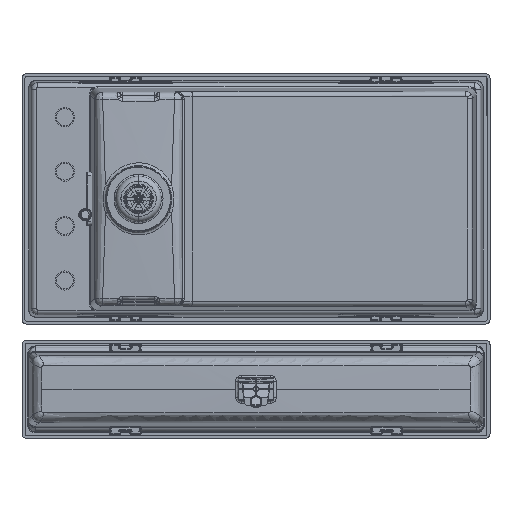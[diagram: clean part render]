
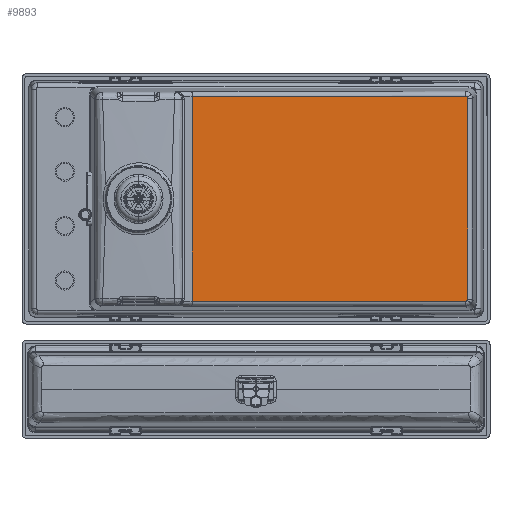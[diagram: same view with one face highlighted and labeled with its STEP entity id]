
A CAD part, front view. The second image highlights one B-rep face of the part: STEP entity #9893.
In plain terms, the highlighted planar face has unit normal (0.026, -1, 0).
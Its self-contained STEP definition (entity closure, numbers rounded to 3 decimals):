
#2474 = LINE ( 'NONE', #53708, #117945 ) ;
#9893 = ADVANCED_FACE ( 'NONE', ( #10015 ), #174915, .T. ) ;
#10015 = FACE_OUTER_BOUND ( 'NONE', #90683, .T. ) ;
#10958 = CARTESIAN_POINT ( 'NONE',  ( 818.165, -178.038, -43.159 ) ) ;
#15091 = CARTESIAN_POINT ( 'NONE',  ( 818.842, -178.021, -45.383 ) ) ;
#16696 = VERTEX_POINT ( 'NONE', #33558 ) ;
#22126 = VERTEX_POINT ( 'NONE', #161753 ) ;
#22325 = CARTESIAN_POINT ( 'NONE',  ( 819.766, -177.997, -1.5 ) ) ;
#22722 = ORIENTED_EDGE ( 'NONE', *, *, #147077, .T. ) ;
#23752 = AXIS2_PLACEMENT_3D ( 'NONE', #22325, #77920, #26707 ) ;
#26707 = DIRECTION ( 'NONE',  ( 0., 0., -1. ) ) ;
#30430 = DIRECTION ( 'NONE',  ( -1., -0.026, -0.001 ) ) ;
#30957 = CARTESIAN_POINT ( 'NONE',  ( 816.205, -178.089, -41.392 ) ) ;
#33558 = CARTESIAN_POINT ( 'NONE',  ( 818.165, -178.038, -416.841 ) ) ;
#36233 = CARTESIAN_POINT ( 'NONE',  ( 814.842, -178.124, -418.606 ) ) ;
#36327 = ORIENTED_EDGE ( 'NONE', *, *, #214008, .T. ) ;
#48341 = LINE ( 'NONE', #183098, #122928 ) ;
#48774 = CARTESIAN_POINT ( 'NONE',  ( 814.842, -178.124, -41.394 ) ) ;
#50431 = DIRECTION ( 'NONE',  ( 0., 0., 1. ) ) ;
#51380 = EDGE_CURVE ( 'NONE', #202875, #80771, #149434, .T. ) ;
#53406 = CARTESIAN_POINT ( 'NONE',  ( 814.842, -178.124, -41.394 ) ) ;
#53708 = CARTESIAN_POINT ( 'NONE',  ( 818.842, -178.021, -1.5 ) ) ;
#56962 = EDGE_CURVE ( 'NONE', #71732, #144204, #113644, .T. ) ;
#60545 = CARTESIAN_POINT ( 'NONE',  ( 818.842, -178.021, -415.416 ) ) ;
#64036 = ORIENTED_EDGE ( 'NONE', *, *, #126503, .T. ) ;
#64626 = ORIENTED_EDGE ( 'NONE', *, *, #206279, .T. ) ;
#65432 =( BOUNDED_CURVE ( )  B_SPLINE_CURVE ( 3, ( #93904, #145150, #60545, #178558 ),
 .UNSPECIFIED., .F., .F. ) 
 B_SPLINE_CURVE_WITH_KNOTS ( ( 4, 4 ),
 ( 0., 0.59 ),
 .UNSPECIFIED. ) 
 CURVE ( )  GEOMETRIC_REPRESENTATION_ITEM ( )  RATIONAL_B_SPLINE_CURVE ( ( 1., 0.971, 0.971, 1. ) ) 
 REPRESENTATION_ITEM ( '' )  );
#66834 = EDGE_CURVE ( 'NONE', #80771, #211081, #132216, .T. ) ;
#71732 = VERTEX_POINT ( 'NONE', #218117 ) ;
#74599 = ORIENTED_EDGE ( 'NONE', *, *, #51380, .T. ) ;
#77920 = DIRECTION ( 'NONE',  ( 0.026, -1., 0. ) ) ;
#80771 = VERTEX_POINT ( 'NONE', #97101 ) ;
#84088 = CARTESIAN_POINT ( 'NONE',  ( 818.842, -178.021, -44.584 ) ) ;
#84492 = ORIENTED_EDGE ( 'NONE', *, *, #108330, .T. ) ;
#90683 = EDGE_LOOP ( 'NONE', ( #74599, #198105, #64626, #84492, #126114, #22722, #36327, #64036 ) ) ;
#93904 = CARTESIAN_POINT ( 'NONE',  ( 818.165, -178.038, -416.841 ) ) ;
#97101 = CARTESIAN_POINT ( 'NONE',  ( 818.165, -178.038, -43.159 ) ) ;
#99568 = CARTESIAN_POINT ( 'NONE',  ( 818.842, -178.021, -414.617 ) ) ;
#101888 = CARTESIAN_POINT ( 'NONE',  ( 818.165, -178.038, -43.159 ) ) ;
#105231 = CARTESIAN_POINT ( 'NONE',  ( 818.165, -178.038, -416.841 ) ) ;
#107216 = VECTOR ( 'NONE', #184916, 1000. ) ;
#108330 = EDGE_CURVE ( 'NONE', #22126, #71732, #48341, .T. ) ;
#113644 = LINE ( 'NONE', #116927, #107216 ) ;
#115196 = VERTEX_POINT ( 'NONE', #99568 ) ;
#116927 = CARTESIAN_POINT ( 'NONE',  ( 819.207, -178.012, -418.612 ) ) ;
#117945 = VECTOR ( 'NONE', #50431, 1000. ) ;
#122928 = VECTOR ( 'NONE', #216552, 1000. ) ;
#124617 = CARTESIAN_POINT ( 'NONE',  ( 818.842, -178.021, -45.383 ) ) ;
#126114 = ORIENTED_EDGE ( 'NONE', *, *, #56962, .T. ) ;
#126503 = EDGE_CURVE ( 'NONE', #115196, #202875, #2474, .T. ) ;
#131508 = CARTESIAN_POINT ( 'NONE',  ( 814.842, -178.124, -418.606 ) ) ;
#132216 =( BOUNDED_CURVE ( )  B_SPLINE_CURVE ( 3, ( #10958, #183540, #30957, #48774 ),
 .UNSPECIFIED., .F., .F. ) 
 B_SPLINE_CURVE_WITH_KNOTS ( ( 4, 4 ),
 ( 0., 0.979 ),
 .UNSPECIFIED. ) 
 CURVE ( )  GEOMETRIC_REPRESENTATION_ITEM ( )  RATIONAL_B_SPLINE_CURVE ( ( 1., 0.922, 0.922, 1. ) ) 
 REPRESENTATION_ITEM ( '' )  );
#144204 = VERTEX_POINT ( 'NONE', #131508 ) ;
#145150 = CARTESIAN_POINT ( 'NONE',  ( 818.61, -178.027, -416.179 ) ) ;
#147077 = EDGE_CURVE ( 'NONE', #144204, #16696, #202002, .T. ) ;
#149434 =( BOUNDED_CURVE ( )  B_SPLINE_CURVE ( 3, ( #15091, #84088, #202205, #101888 ),
 .UNSPECIFIED., .F., .F. ) 
 B_SPLINE_CURVE_WITH_KNOTS ( ( 4, 4 ),
 ( 5.694, 6.283 ),
 .UNSPECIFIED. ) 
 CURVE ( )  GEOMETRIC_REPRESENTATION_ITEM ( )  RATIONAL_B_SPLINE_CURVE ( ( 1., 0.971, 0.971, 1. ) ) 
 REPRESENTATION_ITEM ( '' )  );
#149576 = CARTESIAN_POINT ( 'NONE',  ( 819.82, -177.996, -41.387 ) ) ;
#161753 = CARTESIAN_POINT ( 'NONE',  ( 312.51, -190.997, -42.069 ) ) ;
#172092 = CARTESIAN_POINT ( 'NONE',  ( 816.205, -178.089, -418.608 ) ) ;
#174915 = PLANE ( 'NONE',  #23752 ) ;
#178558 = CARTESIAN_POINT ( 'NONE',  ( 818.842, -178.021, -414.617 ) ) ;
#183098 = CARTESIAN_POINT ( 'NONE',  ( 312.51, -190.997, -1.5 ) ) ;
#183540 = CARTESIAN_POINT ( 'NONE',  ( 817.407, -178.058, -42.031 ) ) ;
#184916 = DIRECTION ( 'NONE',  ( 1., 0.026, -0.001 ) ) ;
#198105 = ORIENTED_EDGE ( 'NONE', *, *, #66834, .T. ) ;
#202002 =( BOUNDED_CURVE ( )  B_SPLINE_CURVE ( 3, ( #36233, #172092, #205533, #105231 ),
 .UNSPECIFIED., .F., .F. ) 
 B_SPLINE_CURVE_WITH_KNOTS ( ( 4, 4 ),
 ( 5.305, 6.283 ),
 .UNSPECIFIED. ) 
 CURVE ( )  GEOMETRIC_REPRESENTATION_ITEM ( )  RATIONAL_B_SPLINE_CURVE ( ( 1., 0.922, 0.922, 1. ) ) 
 REPRESENTATION_ITEM ( '' )  );
#202205 = CARTESIAN_POINT ( 'NONE',  ( 818.61, -178.027, -43.821 ) ) ;
#202875 = VERTEX_POINT ( 'NONE', #124617 ) ;
#205533 = CARTESIAN_POINT ( 'NONE',  ( 817.407, -178.058, -417.969 ) ) ;
#206279 = EDGE_CURVE ( 'NONE', #211081, #22126, #216463, .T. ) ;
#211081 = VERTEX_POINT ( 'NONE', #53406 ) ;
#214008 = EDGE_CURVE ( 'NONE', #16696, #115196, #65432, .T. ) ;
#216463 = LINE ( 'NONE', #149576, #218943 ) ;
#216552 = DIRECTION ( 'NONE',  ( 0., 0., -1. ) ) ;
#218117 = CARTESIAN_POINT ( 'NONE',  ( 312.51, -190.997, -417.931 ) ) ;
#218943 = VECTOR ( 'NONE', #30430, 1000. ) ;
